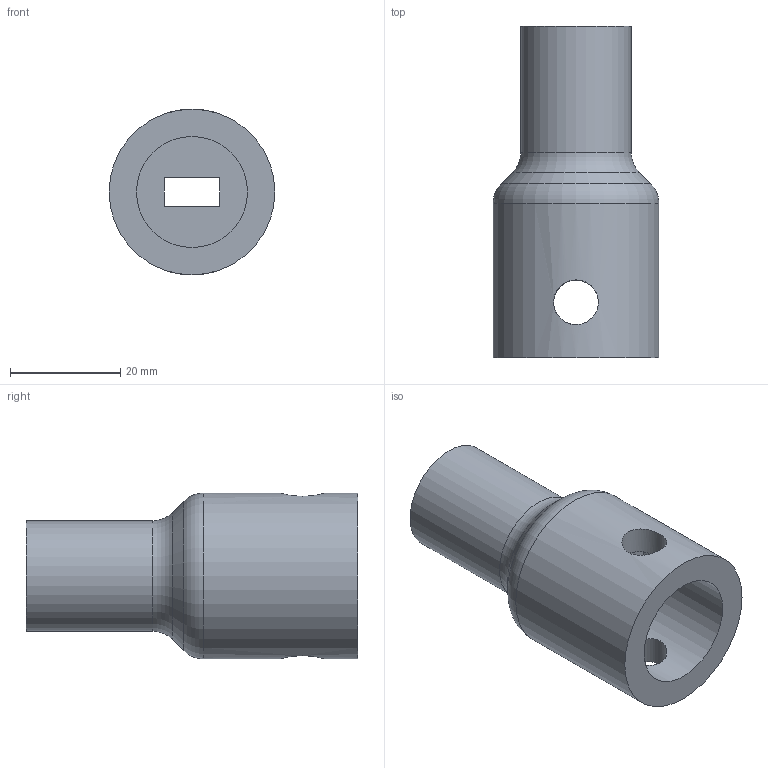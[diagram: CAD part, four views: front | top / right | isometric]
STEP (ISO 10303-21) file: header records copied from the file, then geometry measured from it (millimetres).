
FILE_DESCRIPTION(/* description */ (''),/* implementation_level */ '2;1');
FILE_NAME(/* name */ 'ClampV2.stp',/* time_stamp */ '2026-05-05T20:10:42+02:00',/* author */ ('Jan Krueger'),/* organization */ (''),/* preprocessor_version */ 'ST-DEVELOPER v20.1',/* originating_system */ 'Autodesk Inventor 2026',/* authorisation */ '');
FILE_SCHEMA (('AUTOMOTIVE_DESIGN { 1 0 10303 214 3 1 1 }'));
Length unit declared in the file: millimetre
Products named in the file (1): ClampV2
Bounding box: 30 x 60 x 30 mm (x, y, z)
Volume: 22608 mm3; surface area: 8366.7 mm2
Topology: 1 solids, 1 shells, 15 faces, 40 edges, 28 vertices
Faces by surface type: plane 7, cylinder 5, torus 2, cone 1
Full cylindrical faces by diameter (mm): 8.1 x2, 20 x1, 20.1 x1, 30 x1
Entity records: 655 total; most frequent: CARTESIAN_POINT 220, ORIENTED_EDGE 80, DIRECTION 78, EDGE_CURVE 40, AXIS2_PLACEMENT_3D 30, VERTEX_POINT 28, EDGE_LOOP 22, LINE 18
